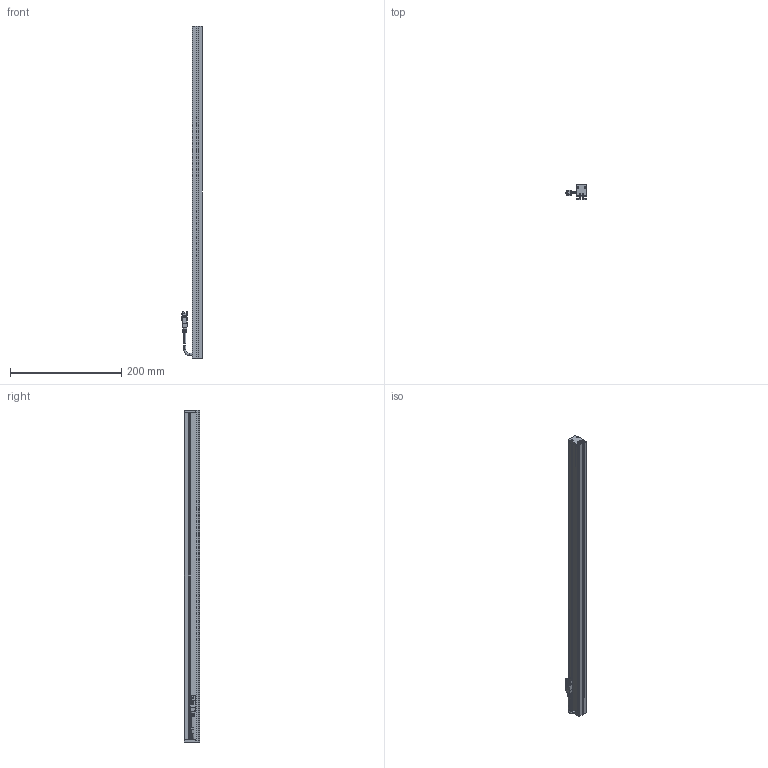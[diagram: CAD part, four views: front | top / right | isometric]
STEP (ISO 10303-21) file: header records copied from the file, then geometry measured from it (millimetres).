
FILE_DESCRIPTION (( 'STEP AP203' ), '1' );
FILE_NAME ('CK-BL59718.STEP', '2025-12-26T08:59:40', ( '' ), ( '' ), 'SwSTEP 2.0', 'SolidWorks 2022', '' );
FILE_SCHEMA (( 'CONFIG_CONTROL_DESIGN' ));
Length unit declared in the file: millimetre
Products named in the file (6): CK-BL59718-001A; CK-BL59718-002A; 十字沉头螺丝 M2x10; CK-BL59718; 光源线-01; CK-BL59718-003A
Assembly tree (9 placements, depth 2):
  CK-BL59718
    CK-BL59718-001A
    CK-BL59718-002A  x2
    CK-BL59718-003A
    光源线-01
    十字沉头螺丝 M2x10  x4
Bounding box: 37.34 x 27 x 597 mm (x, y, z)
Volume: 133815.1 mm3; surface area: 132137 mm2
Topology: 11 solids, 11 shells, 474 faces, 1231 edges, 780 vertices
Faces by surface type: plane 271, cylinder 149, cone 34, bspline 20
Entity records: 12442 total; most frequent: CARTESIAN_POINT 2514, ORIENTED_EDGE 1936, DIRECTION 1916, EDGE_CURVE 968, VECTOR 668, LINE 668, VERTEX_POINT 626, AXIS2_PLACEMENT_3D 624
